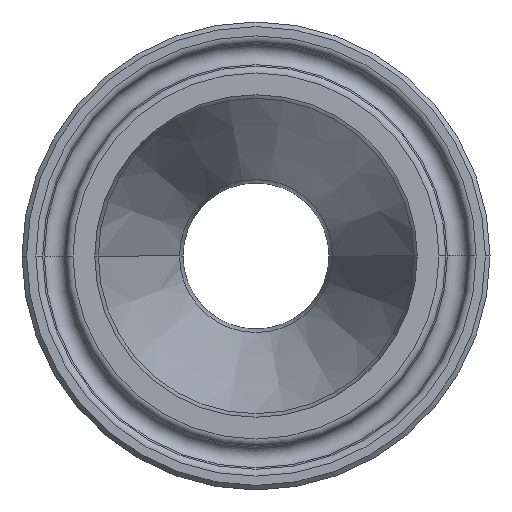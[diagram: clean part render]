
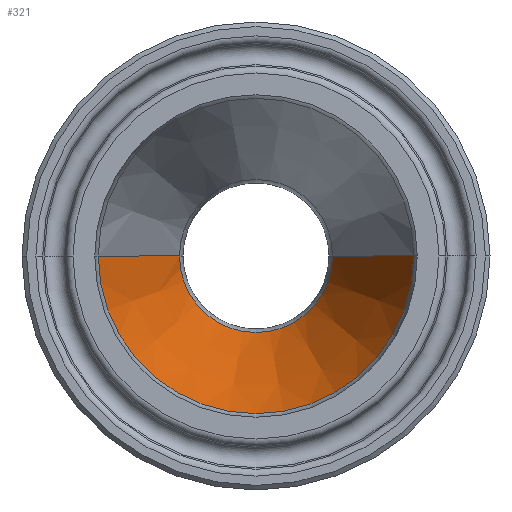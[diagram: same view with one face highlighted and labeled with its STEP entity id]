
A CAD part, left-side view. The second image highlights one B-rep face of the part: STEP entity #321.
In plain terms, the highlighted conical face has half-angle 20 degrees and reference radius 17.017 mm.
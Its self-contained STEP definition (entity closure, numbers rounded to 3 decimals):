
#20 = DIRECTION ( 'NONE',  ( 1., 0., 0. ) ) ;
#56 = VERTEX_POINT ( 'NONE', #886 ) ;
#134 = AXIS2_PLACEMENT_3D ( 'NONE', #185, #20, #1009 ) ;
#185 = CARTESIAN_POINT ( 'NONE',  ( -77.848, 0., 0. ) ) ;
#191 = CARTESIAN_POINT ( 'NONE',  ( -77.848, -17.017, 0. ) ) ;
#246 = VERTEX_POINT ( 'NONE', #668 ) ;
#270 = ORIENTED_EDGE ( 'NONE', *, *, #295, .T. ) ;
#295 = EDGE_CURVE ( 'NONE', #246, #56, #1015, .T. ) ;
#298 = VECTOR ( 'NONE', #696, 1000. ) ;
#301 = ORIENTED_EDGE ( 'NONE', *, *, #716, .T. ) ;
#321 = ADVANCED_FACE ( 'NONE', ( #1046 ), #598, .F. ) ;
#380 = AXIS2_PLACEMENT_3D ( 'NONE', #880, #1047, #1042 ) ;
#460 = CARTESIAN_POINT ( 'NONE',  ( -53.782, -8.258, 0. ) ) ;
#514 = EDGE_CURVE ( 'NONE', #647, #1110, #959, .T. ) ;
#523 = ORIENTED_EDGE ( 'NONE', *, *, #1099, .F. ) ;
#538 = CARTESIAN_POINT ( 'NONE',  ( -53.782, 0., 0. ) ) ;
#589 = CIRCLE ( 'NONE', #695, 8.258 ) ;
#598 = CONICAL_SURFACE ( 'NONE', #380, 17.017, 0.349 ) ;
#641 = ORIENTED_EDGE ( 'NONE', *, *, #514, .F. ) ;
#647 = VERTEX_POINT ( 'NONE', #460 ) ;
#668 = CARTESIAN_POINT ( 'NONE',  ( -53.782, 8.258, 0. ) ) ;
#687 = CARTESIAN_POINT ( 'NONE',  ( -77.848, 17.017, 0. ) ) ;
#695 = AXIS2_PLACEMENT_3D ( 'NONE', #538, #954, #938 ) ;
#696 = DIRECTION ( 'NONE',  ( -0.94, 0.342, 0. ) ) ;
#716 = EDGE_CURVE ( 'NONE', #647, #246, #589, .T. ) ;
#737 = DIRECTION ( 'NONE',  ( -0.94, -0.342, 0. ) ) ;
#752 = EDGE_LOOP ( 'NONE', ( #301, #270, #523, #641 ) ) ;
#808 = CARTESIAN_POINT ( 'NONE',  ( -77.848, -17.017, 0. ) ) ;
#880 = CARTESIAN_POINT ( 'NONE',  ( -77.848, 0., 0. ) ) ;
#886 = CARTESIAN_POINT ( 'NONE',  ( -77.848, 17.017, 0. ) ) ;
#929 = CIRCLE ( 'NONE', #134, 17.017 ) ;
#935 = VECTOR ( 'NONE', #737, 1000. ) ;
#938 = DIRECTION ( 'NONE',  ( 0., -1., 0. ) ) ;
#954 = DIRECTION ( 'NONE',  ( 1., 0., 0. ) ) ;
#959 = LINE ( 'NONE', #808, #935 ) ;
#1009 = DIRECTION ( 'NONE',  ( 0., 1., 0. ) ) ;
#1015 = LINE ( 'NONE', #687, #298 ) ;
#1042 = DIRECTION ( 'NONE',  ( 0., -1., 0. ) ) ;
#1046 = FACE_OUTER_BOUND ( 'NONE', #752, .T. ) ;
#1047 = DIRECTION ( 'NONE',  ( -1., 0., 0. ) ) ;
#1099 = EDGE_CURVE ( 'NONE', #1110, #56, #929, .T. ) ;
#1110 = VERTEX_POINT ( 'NONE', #191 ) ;
